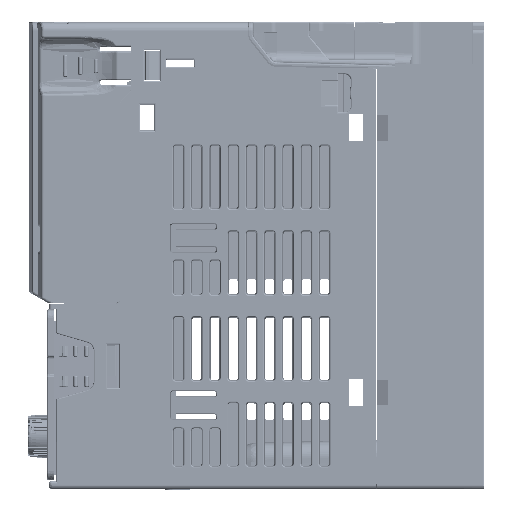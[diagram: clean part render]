
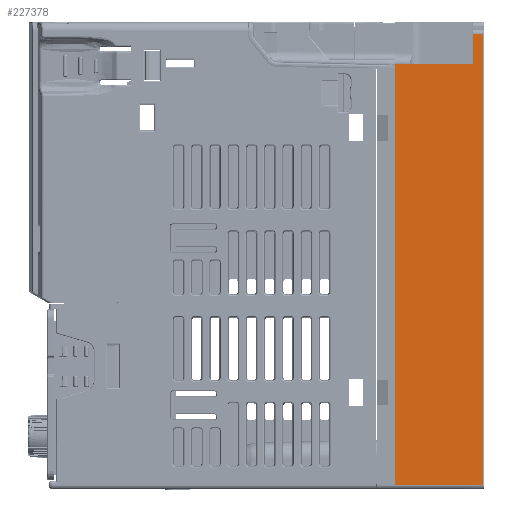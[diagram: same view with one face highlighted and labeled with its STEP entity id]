
A CAD part, left-side view. The second image highlights one B-rep face of the part: STEP entity #227378.
In plain terms, the highlighted planar face has unit normal (-1, 0, 0).
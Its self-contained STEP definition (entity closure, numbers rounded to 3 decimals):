
#225102=DIRECTION('',(0.,0.,-1.));
#225103=VECTOR('',#225102,115.3);
#225104=CARTESIAN_POINT('',(-34.,0.,52.5));
#225105=LINE('',#225104,#225103);
#225125=CARTESIAN_POINT('',(-34.,-23.9,-62.8));
#225143=DIRECTION('',(0.,-1.,0.));
#225144=VECTOR('',#225143,23.9);
#225145=CARTESIAN_POINT('',(-34.,0.,-62.8));
#225146=LINE('',#225145,#225144);
#225157=DIRECTION('',(0.,0.,1.));
#225158=VECTOR('',#225157,123.6);
#225159=CARTESIAN_POINT('',(-34.,-23.9,-62.8));
#225160=LINE('',#225159,#225158);
#225170=CARTESIAN_POINT('',(-34.,-23.9,60.8));
#225175=DIRECTION('',(0.,1.,0.));
#225176=VECTOR('',#225175,2.5);
#225177=CARTESIAN_POINT('',(-34.,-23.9,60.8));
#225178=LINE('',#225177,#225176);
#225204=DIRECTION('',(0.,1.,0.));
#225205=VECTOR('',#225204,21.4);
#225206=CARTESIAN_POINT('',(-34.,-21.4,52.5));
#225207=LINE('',#225206,#225205);
#226349=DIRECTION('',(0.,0.,-1.));
#226350=VECTOR('',#226349,8.3);
#226351=CARTESIAN_POINT('',(-34.,-21.4,60.8));
#226352=LINE('',#226351,#226350);
#226937=CARTESIAN_POINT('',(-34.,0.,-62.8));
#226939=VERTEX_POINT('',#226937);
#226963=CARTESIAN_POINT('',(-34.,0.,52.5));
#226964=VERTEX_POINT('',#226963);
#226969=VERTEX_POINT('',#225125);
#226974=VERTEX_POINT('',#225170);
#226975=CARTESIAN_POINT('',(-34.,-21.4,60.8));
#226976=VERTEX_POINT('',#226975);
#226981=CARTESIAN_POINT('',(-34.,-21.4,52.5));
#226982=VERTEX_POINT('',#226981);
#227363=CARTESIAN_POINT('',(-34.,0.,-64.));
#227364=DIRECTION('',(-1.,0.,0.));
#227365=DIRECTION('',(0.,0.,1.));
#227366=AXIS2_PLACEMENT_3D('',#227363,#227364,#227365);
#227367=PLANE('',#227366);
#227368=ORIENTED_EDGE('',*,*,#227341,.F.);
#227369=ORIENTED_EDGE('',*,*,#227326,.F.);
#227370=ORIENTED_EDGE('',*,*,#227303,.F.);
#227372=ORIENTED_EDGE('',*,*,#227371,.F.);
#227374=ORIENTED_EDGE('',*,*,#227373,.F.);
#227375=ORIENTED_EDGE('',*,*,#227352,.F.);
#227376=EDGE_LOOP('',(#227368,#227369,#227370,#227372,#227374,#227375));
#227377=FACE_OUTER_BOUND('',#227376,.F.);
#227303=EDGE_CURVE('',#226964,#226939,#225105,.T.);
#227326=EDGE_CURVE('',#226939,#226969,#225146,.T.);
#227341=EDGE_CURVE('',#226969,#226974,#225160,.T.);
#227352=EDGE_CURVE('',#226974,#226976,#225178,.T.);
#227371=EDGE_CURVE('',#226982,#226964,#225207,.T.);
#227373=EDGE_CURVE('',#226976,#226982,#226352,.T.);
#227378=ADVANCED_FACE('',(#227377),#227367,.T.);
